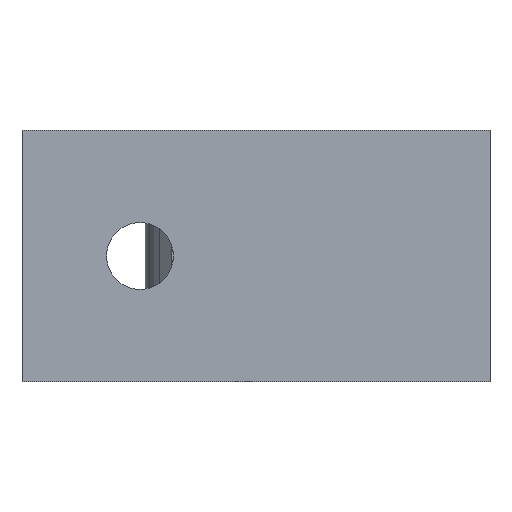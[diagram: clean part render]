
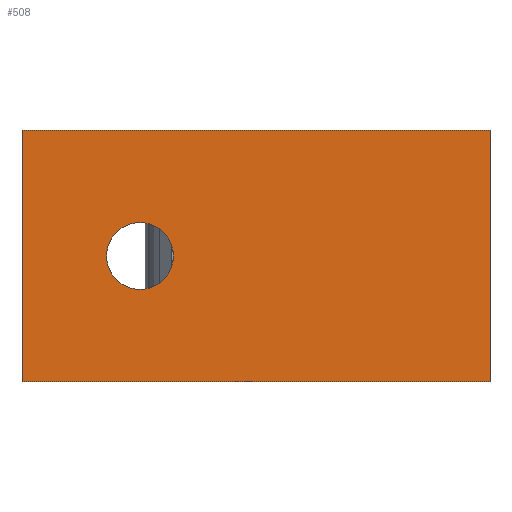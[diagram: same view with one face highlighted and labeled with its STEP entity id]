
A CAD part, front view. The second image highlights one B-rep face of the part: STEP entity #508.
In plain terms, the highlighted planar face has unit normal (0, -1, 0).
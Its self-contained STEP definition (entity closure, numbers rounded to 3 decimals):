
#13 = CARTESIAN_POINT ( 'NONE',  ( 10.75, 0., 0. ) ) ;
#26 = ORIENTED_EDGE ( 'NONE', *, *, #356, .T. ) ;
#27 = CARTESIAN_POINT ( 'NONE',  ( 15., 0., 0. ) ) ;
#44 = CARTESIAN_POINT ( 'NONE',  ( 59.5, 0., 16. ) ) ;
#58 = EDGE_LOOP ( 'NONE', ( #26, #466, #715, #113 ) ) ;
#61 = EDGE_LOOP ( 'NONE', ( #211, #106 ) ) ;
#72 = CARTESIAN_POINT ( 'NONE',  ( 0., 0., -16. ) ) ;
#96 = DIRECTION ( 'NONE',  ( 0., 1., 0. ) ) ;
#104 = CARTESIAN_POINT ( 'NONE',  ( 59.5, 0., -16. ) ) ;
#106 = ORIENTED_EDGE ( 'NONE', *, *, #250, .T. ) ;
#113 = ORIENTED_EDGE ( 'NONE', *, *, #415, .T. ) ;
#114 = VERTEX_POINT ( 'NONE', #343 ) ;
#117 = DIRECTION ( 'NONE',  ( 0., 0., 1. ) ) ;
#142 = DIRECTION ( 'NONE',  ( 1., 0., 0. ) ) ;
#188 = VERTEX_POINT ( 'NONE', #13 ) ;
#194 = LINE ( 'NONE', #72, #479 ) ;
#211 = ORIENTED_EDGE ( 'NONE', *, *, #410, .T. ) ;
#213 = AXIS2_PLACEMENT_3D ( 'NONE', #307, #232, #117 ) ;
#215 = CARTESIAN_POINT ( 'NONE',  ( 15., 0., 0. ) ) ;
#220 = FACE_BOUND ( 'NONE', #61, .T. ) ;
#232 = DIRECTION ( 'NONE',  ( 0., 1., 0. ) ) ;
#236 = VERTEX_POINT ( 'NONE', #492 ) ;
#250 = EDGE_CURVE ( 'NONE', #188, #398, #512, .T. ) ;
#251 = CARTESIAN_POINT ( 'NONE',  ( 0., 0., 16. ) ) ;
#262 = LINE ( 'NONE', #44, #557 ) ;
#266 = FACE_OUTER_BOUND ( 'NONE', #58, .T. ) ;
#272 = VECTOR ( 'NONE', #142, 1000. ) ;
#305 = EDGE_CURVE ( 'NONE', #114, #334, #262, .T. ) ;
#307 = CARTESIAN_POINT ( 'NONE',  ( 0., 0., 16. ) ) ;
#326 = LINE ( 'NONE', #251, #272 ) ;
#334 = VERTEX_POINT ( 'NONE', #104 ) ;
#343 = CARTESIAN_POINT ( 'NONE',  ( 59.5, 0., 16. ) ) ;
#356 = EDGE_CURVE ( 'NONE', #735, #334, #194, .T. ) ;
#365 = VECTOR ( 'NONE', #623, 1000. ) ;
#367 = CIRCLE ( 'NONE', #429, 4.25 ) ;
#378 = PLANE ( 'NONE',  #213 ) ;
#398 = VERTEX_POINT ( 'NONE', #586 ) ;
#410 = EDGE_CURVE ( 'NONE', #398, #188, #367, .T. ) ;
#415 = EDGE_CURVE ( 'NONE', #236, #735, #748, .T. ) ;
#429 = AXIS2_PLACEMENT_3D ( 'NONE', #27, #498, #435 ) ;
#430 = CARTESIAN_POINT ( 'NONE',  ( 0., 0., -16. ) ) ;
#435 = DIRECTION ( 'NONE',  ( -1., 0., 0. ) ) ;
#466 = ORIENTED_EDGE ( 'NONE', *, *, #305, .F. ) ;
#479 = VECTOR ( 'NONE', #734, 1000. ) ;
#492 = CARTESIAN_POINT ( 'NONE',  ( 0., 0., 16. ) ) ;
#498 = DIRECTION ( 'NONE',  ( 0., 1., 0. ) ) ;
#501 = EDGE_CURVE ( 'NONE', #236, #114, #326, .T. ) ;
#508 = ADVANCED_FACE ( 'NONE', ( #266, #220 ), #378, .F. ) ;
#512 = CIRCLE ( 'NONE', #631, 4.25 ) ;
#557 = VECTOR ( 'NONE', #713, 1000. ) ;
#586 = CARTESIAN_POINT ( 'NONE',  ( 19.25, 0., 0. ) ) ;
#623 = DIRECTION ( 'NONE',  ( 0., 0., -1. ) ) ;
#631 = AXIS2_PLACEMENT_3D ( 'NONE', #215, #96, #745 ) ;
#684 = CARTESIAN_POINT ( 'NONE',  ( 0., 0., 16. ) ) ;
#713 = DIRECTION ( 'NONE',  ( 0., 0., -1. ) ) ;
#715 = ORIENTED_EDGE ( 'NONE', *, *, #501, .F. ) ;
#734 = DIRECTION ( 'NONE',  ( 1., 0., 0. ) ) ;
#735 = VERTEX_POINT ( 'NONE', #430 ) ;
#745 = DIRECTION ( 'NONE',  ( -1., 0., 0. ) ) ;
#748 = LINE ( 'NONE', #684, #365 ) ;
